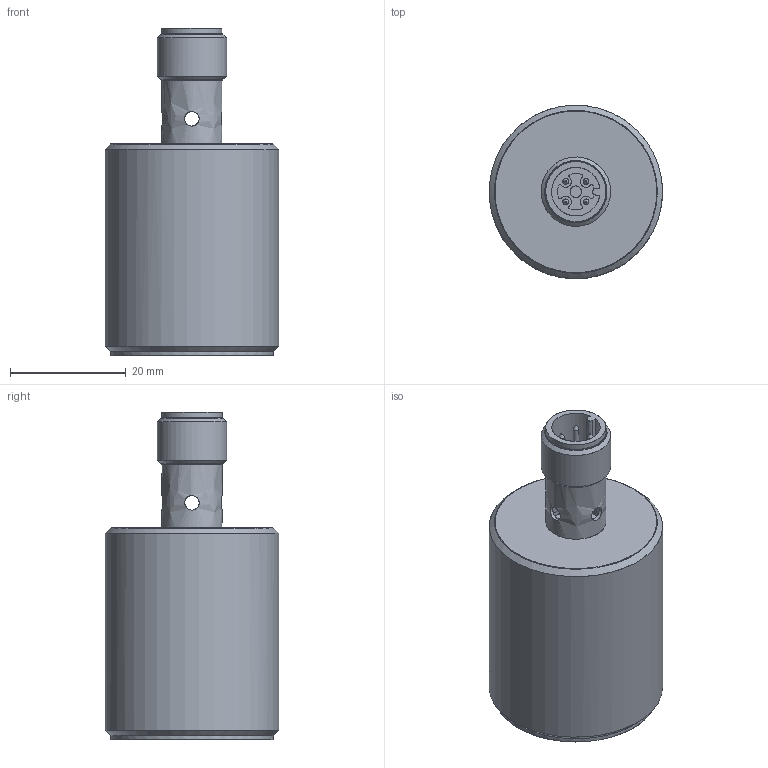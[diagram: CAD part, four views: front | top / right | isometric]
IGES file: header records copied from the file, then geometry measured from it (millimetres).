
Global section: file name: D:\dd\DSD-0302.igs; preprocessor: I-DEAS 3D IGES Translator 13; date: 20100121.104713; units: millimetre
Bounding box: 29.95 x 29.96 x 56.7 mm (x, y, z)
Surface area: 10130.8 mm2
Topology: 4 solids, 4 shells, 82 faces, 536 edges, 470 vertices
Faces by surface type: bspline 82
